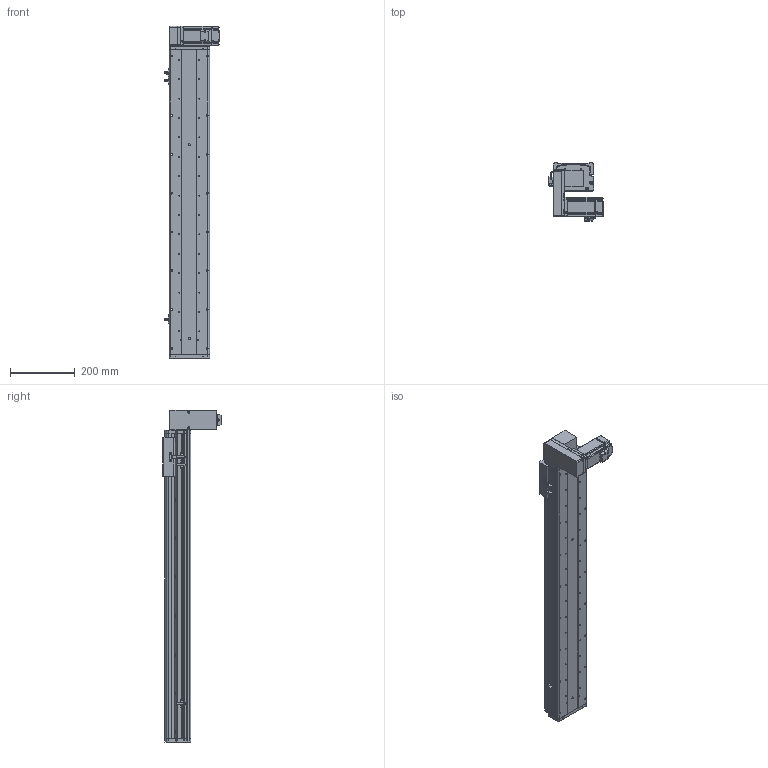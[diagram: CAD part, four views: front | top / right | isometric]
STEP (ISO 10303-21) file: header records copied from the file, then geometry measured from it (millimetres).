
FILE_DESCRIPTION (( 'STEP AP214' ), '1' );
FILE_NAME ('KSD125B-S750-MRD-CM.STEP', '2017-10-21T06:11:11', ( '微软用户' ), ( '微软中国' ), 'SwSTEP 2.0', 'SolidWorks 2014', '' );
FILE_SCHEMA (( 'AUTOMOTIVE_DESIGN' ));
Length unit declared in the file: millimetre
Products named in the file (17): HTPA30S3M150_A_H6_a萇儂蚚; 100宽马达安装板连板上下折丝杆同步带; KSD125模组750行程同步带-防尘盖; 125模组750行程同步带-底板; MHMD042G1CA_2_03; KSD125模组同步带-防撞垫2; 覜茼え68遵圉猾敕; U倰嫖萇假蚾璃; U倰嫖萇EEㄜSX672; KSD125模组同步带-防撞垫1; 100宽马达安装板同步带右; 前端板-125宽模组同步带; 125模组同步带-尾端板1; KSD125模组同步带-滑动座1; KSD125B-S750-MRD-CM; 悵誘欶奻狟殏; HTPA30S3M150_A_H6_a佪裝蚚
Assembly tree (20 placements, depth 2):
  KSD125B-S750-MRD-CM
    KSD125模组同步带-滑动座1
    125模组同步带-尾端板1
    前端板-125宽模组同步带
    100宽马达安装板同步带右
    KSD125模组同步带-防撞垫1
    U倰嫖萇EEㄜSX672  x3
    U倰嫖萇假蚾璃  x3
    覜茼え68遵圉猾敕
    KSD125模组同步带-防撞垫2
    MHMD042G1CA_2_03
    125模组750行程同步带-底板
    KSD125模组750行程同步带-防尘盖
    100宽马达安装板连板上下折丝杆同步带
    HTPA30S3M150_A_H6_a萇儂蚚
    HTPA30S3M150_A_H6_a佪裝蚚
    悵誘欶奻狟殏
Bounding box: 168.7 x 179.5 x 1027 mm (x, y, z)
Volume: 3259295.6 mm3; surface area: 1109855.1 mm2
Topology: 19 solids, 22 shells, 2275 faces, 6589 edges, 4354 vertices
Faces by surface type: cylinder 1424, plane 724, cone 105, bspline 22
Entity records: 80843 total; most frequent: CARTESIAN_POINT 15963, DIRECTION 12570, ORIENTED_EDGE 11698, EDGE_CURVE 5927, AXIS2_PLACEMENT_3D 4857, VERTEX_POINT 3946, LINE 2856, VECTOR 2856
